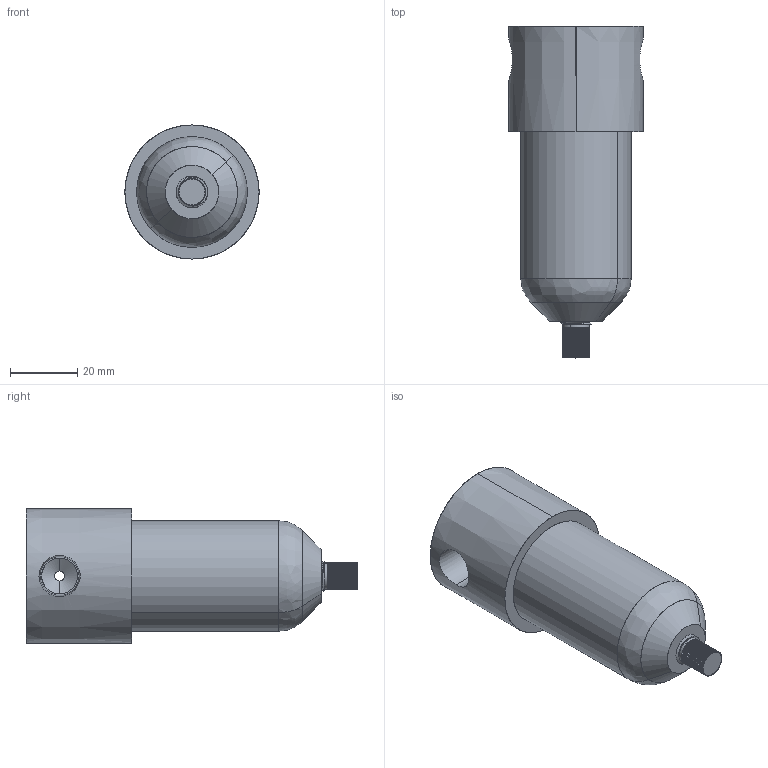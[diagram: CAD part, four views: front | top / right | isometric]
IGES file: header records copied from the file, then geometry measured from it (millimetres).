
Start section: SolidWorks IGES file using analytic representation for surfaces
Global section: file name: D:\Custom\3D繪製\FRL\F504\F504-02-Y.IGS, ; native system: SolidWorks 2014; preprocessor: SolidWorks 2014; author: Chieh_Lu; date: 160115.022041; units: millimetre
Bounding box: 40 x 99 x 40 mm (x, y, z)
Surface area: 15584.6 mm2 (no closed solid volume)
Topology: 0 solids, 0 shells, 198 faces, 2048 edges, 2048 vertices
Faces by surface type: bspline 157, revolution 41
